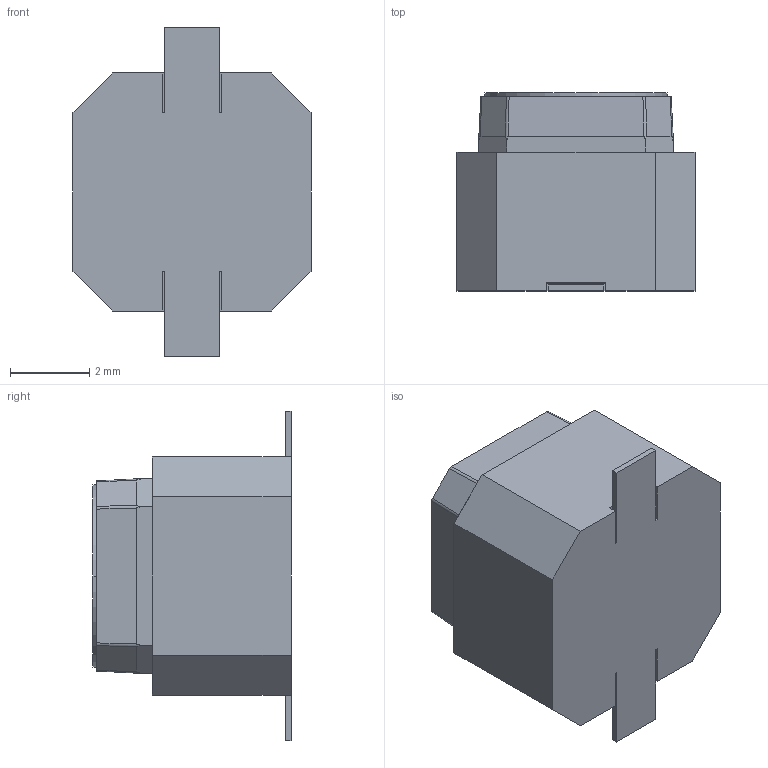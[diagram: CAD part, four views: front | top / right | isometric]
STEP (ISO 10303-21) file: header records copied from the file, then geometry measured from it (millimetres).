
FILE_DESCRIPTION((''),'2;1');
FILE_NAME('JSA6060-C0501-01-1-101_ASM','2026-05-18T11:28:23',('Admin'),(''),'CREO PARAMETRIC BY PTC INC, 2019224','CREO PARAMETRIC BY PTC INC, 2019224','');
FILE_SCHEMA(('AUTOMOTIVE_DESIGN { 1 0 10303 214 1 1 1 1 }'));
Length unit declared in the file: millimetre
Products named in the file (3): JSA6060-C0501-01-1-101_01; JSA6060-C0501-01-1-101_02; JSA6060-C0501-01-1-101_ASM
Assembly tree (2 placements, depth 2):
  JSA6060-C0501-01-1-101_ASM
    JSA6060-C0501-01-1-101_01
    JSA6060-C0501-01-1-101_02
Bounding box: 6 x 5 x 8.3 mm (x, y, z)
Volume: 144.2 mm3; surface area: 322.7 mm2
Topology: 2 solids, 2 shells, 72 faces, 199 edges, 134 vertices
Faces by surface type: plane 62, cylinder 10
Entity records: 3262 total; most frequent: CARTESIAN_POINT 555, ORIENTED_EDGE 396, DIRECTION 341, PRESENTATION_STYLE_ASSIGNMENT 213, STYLED_ITEM 204, CURVE_STYLE 202, EDGE_CURVE 198, VECTOR 171
